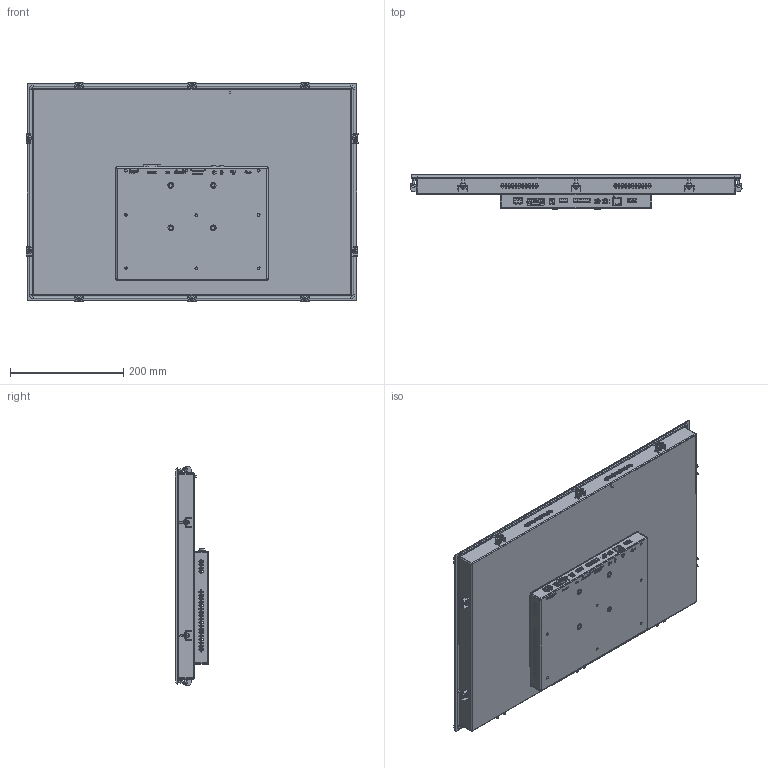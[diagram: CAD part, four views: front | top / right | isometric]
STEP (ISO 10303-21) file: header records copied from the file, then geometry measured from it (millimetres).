
FILE_DESCRIPTION (( 'STEP AP214' ), '1' );
FILE_NAME ('ﾏﾋﾊ24 ﾌ瑕褪.STEP', '2025-05-24T22:36:02', ( '' ), ( '' ), 'SwSTEP 2.0', 'SolidWorks 2021', '' );
FILE_SCHEMA (( 'AUTOMOTIVE_DESIGN' ));
Length unit declared in the file: millimetre
Products named in the file (1): ﾏﾋﾊ24 ﾌ瑕褪
Bounding box: 587.04 x 59.7 x 388.14 mm (x, y, z)
Surface area: 990739.4 mm2 (no closed solid volume)
Topology: 0 solids, 194 shells, 1421 faces, 10749 edges, 9415 vertices
Faces by surface type: plane 677, cylinder 643, torus 45, cone 32, bspline 24
Entity records: 122172 total; most frequent: CARTESIAN_POINT 33097, DIRECTION 13616, ORIENTED_EDGE 12916, EDGE_CURVE 10749, VERTEX_POINT 9415, VECTOR 5258, LINE 5258, AXIS2_PLACEMENT_3D 4179
